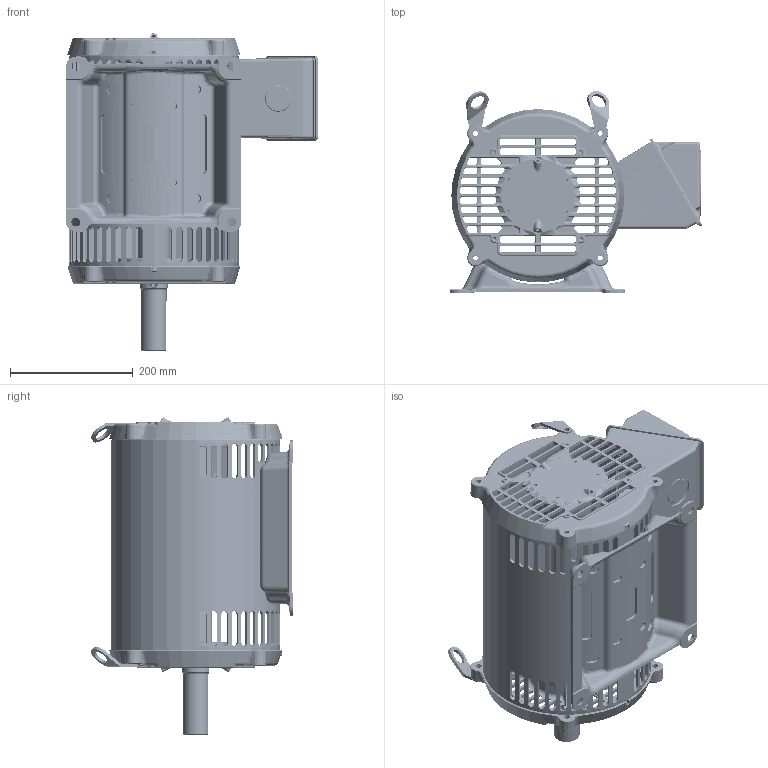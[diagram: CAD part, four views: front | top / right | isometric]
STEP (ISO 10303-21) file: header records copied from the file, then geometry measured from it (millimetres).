
FILE_DESCRIPTION((''),'2;1');
FILE_NAME('250_ODP_ASM_ASM','2016-08-05T',('emd2341'),('Nidec Motor Corporation'),'PRO/ENGINEER BY PARAMETRIC TECHNOLOGY CORPORATION, 2013150','PRO/ENGINEER BY PARAMETRIC TECHNOLOGY CORPORATION, 2013150','');
FILE_SCHEMA(('CONFIG_CONTROL_DESIGN'));
Length unit declared in the file: inch
Products named in the file (14): 2034526_AF0; 2028413-BKT_AF0; 2033996-005_AF0; 2028414_ASM; 2035295-BKT_AF0; 2033996-005_AF2; 2028415_ASM; 0172877; 2034528; 0369733; 0380720; 0364282; 0364292; 250_ODP_ASM_ASM
Assembly tree (14 placements, depth 3):
  250_ODP_ASM_ASM
    2034526_AF0
    2028414_ASM
      2028413-BKT_AF0
      2033996-005_AF0
    2028415_ASM
      2035295-BKT_AF0
      2033996-005_AF2
    0172877
    2034528
    0369733  x2
    0380720
    0364282
    0364292
Bounding box: 410.25 x 328.52 x 517.32 mm (x, y, z)
Volume: 3971430.5 mm3; surface area: 1507567.9 mm2
Topology: 14 solids, 14 shells, 4945 faces, 12184 edges, 7247 vertices
Faces by surface type: bspline 1774, cylinder 1342, plane 945, cone 425, torus 381, sphere 62, extrusion 16
Entity records: 244636 total; most frequent: CARTESIAN_POINT 140874, ORIENTED_EDGE 24228, DIRECTION 17969, EDGE_CURVE 12114, VERTEX_POINT 7223, AXIS2_PLACEMENT_3D 7029, EDGE_LOOP 5279, FACE_OUTER_BOUND 4927
